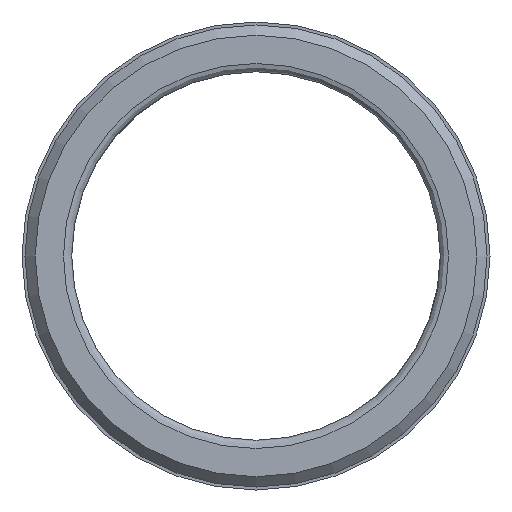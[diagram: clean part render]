
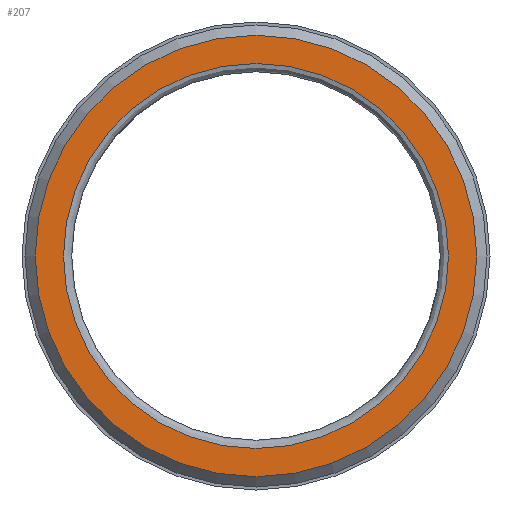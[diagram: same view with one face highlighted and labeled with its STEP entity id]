
A CAD part, front view. The second image highlights one B-rep face of the part: STEP entity #207.
In plain terms, the highlighted planar face has unit normal (0, -1, 0).
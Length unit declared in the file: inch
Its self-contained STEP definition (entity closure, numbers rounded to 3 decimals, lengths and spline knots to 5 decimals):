
#22=FACE_BOUND('',#44,.T.);
#26=PLANE('',#236);
#31=FACE_OUTER_BOUND('',#43,.T.);
#43=EDGE_LOOP('',(#150));
#44=EDGE_LOOP('',(#151,#152));
#68=CIRCLE('',#233,0.266);
#71=CIRCLE('',#237,0.232);
#72=CIRCLE('',#238,0.232);
#93=VERTEX_POINT('',#352);
#96=VERTEX_POINT('',#360);
#97=VERTEX_POINT('',#361);
#115=EDGE_CURVE('',#93,#93,#68,.T.);
#119=EDGE_CURVE('',#96,#97,#71,.T.);
#120=EDGE_CURVE('',#97,#96,#72,.T.);
#150=ORIENTED_EDGE('',*,*,#115,.F.);
#151=ORIENTED_EDGE('',*,*,#119,.F.);
#152=ORIENTED_EDGE('',*,*,#120,.F.);
#207=ADVANCED_FACE('',(#31,#22),#26,.T.);
#233=AXIS2_PLACEMENT_3D('',#353,#273,#274);
#236=AXIS2_PLACEMENT_3D('',#359,#280,#281);
#237=AXIS2_PLACEMENT_3D('',#362,#282,#283);
#238=AXIS2_PLACEMENT_3D('',#363,#284,#285);
#273=DIRECTION('center_axis',(0.,1.,0.));
#274=DIRECTION('ref_axis',(0.,0.,1.));
#280=DIRECTION('center_axis',(0.,-1.,0.));
#281=DIRECTION('ref_axis',(0.,0.,-1.));
#282=DIRECTION('center_axis',(0.,-1.,0.));
#283=DIRECTION('ref_axis',(0.,0.,1.));
#284=DIRECTION('center_axis',(0.,-1.,0.));
#285=DIRECTION('ref_axis',(0.,0.,1.));
#352=CARTESIAN_POINT('',(0.,0.,-0.266));
#353=CARTESIAN_POINT('Origin',(0.,0.,0.));
#359=CARTESIAN_POINT('Origin',(0.,0.,-0.222));
#360=CARTESIAN_POINT('',(0.,0.,-0.232));
#361=CARTESIAN_POINT('',(0.,0.,0.232));
#362=CARTESIAN_POINT('Origin',(0.,0.,0.));
#363=CARTESIAN_POINT('Origin',(0.,0.,0.));
